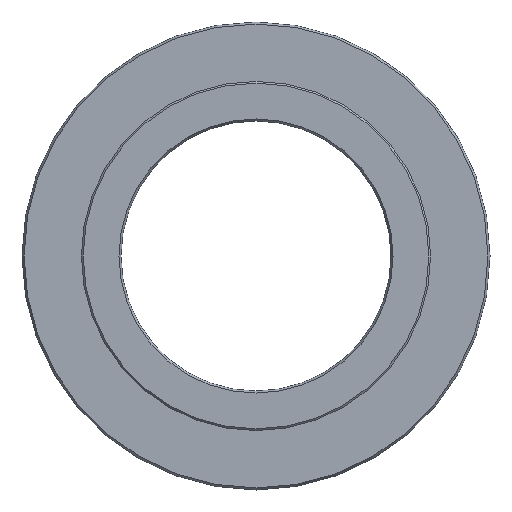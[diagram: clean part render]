
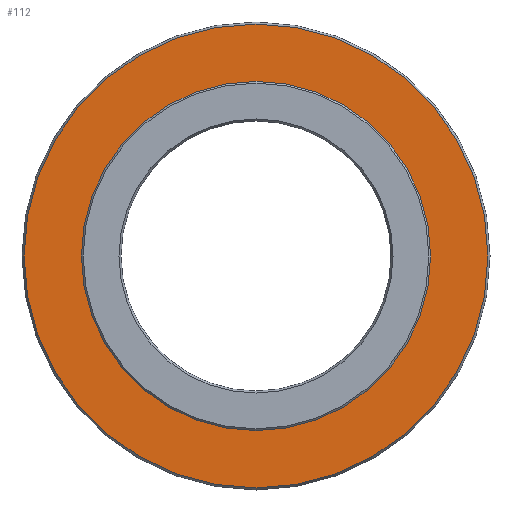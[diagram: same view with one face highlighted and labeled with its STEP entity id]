
A CAD part, left-side view. The second image highlights one B-rep face of the part: STEP entity #112.
In plain terms, the highlighted planar face has unit normal (-1, 0, 0).
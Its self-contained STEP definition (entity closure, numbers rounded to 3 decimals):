
#107=PLANE('',#279);
#112=ADVANCED_FACE('',(#131,#132),#107,.T.);
#131=FACE_BOUND('',#163,.T.);
#132=FACE_BOUND('',#164,.T.);
#163=EDGE_LOOP('',(#195));
#164=EDGE_LOOP('',(#196));
#195=ORIENTED_EDGE('',*,*,#243,.T.);
#196=ORIENTED_EDGE('',*,*,#244,.T.);
#227=VERTEX_POINT('',#379);
#228=VERTEX_POINT('',#381);
#243=EDGE_CURVE('',#227,#227,#259,.T.);
#244=EDGE_CURVE('',#228,#228,#260,.T.);
#259=CIRCLE('',#277,64.423);
#260=CIRCLE('',#278,48.5);
#277=AXIS2_PLACEMENT_3D('',#378,#314,#315);
#278=AXIS2_PLACEMENT_3D('',#380,#316,#317);
#279=AXIS2_PLACEMENT_3D('',#382,#318,#319);
#314=DIRECTION('',(-1.,0.,0.));
#315=DIRECTION('',(0.,0.,1.));
#316=DIRECTION('',(1.,0.,0.));
#317=DIRECTION('',(0.,0.,-1.));
#318=DIRECTION('',(-1.,0.,0.));
#319=DIRECTION('',(0.,0.,1.));
#378=CARTESIAN_POINT('',(0.,0.,0.));
#379=CARTESIAN_POINT('',(0.,0.,64.423));
#380=CARTESIAN_POINT('',(0.,0.,0.));
#381=CARTESIAN_POINT('',(0.,0.,-48.5));
#382=CARTESIAN_POINT('',(0.,65.,0.));
